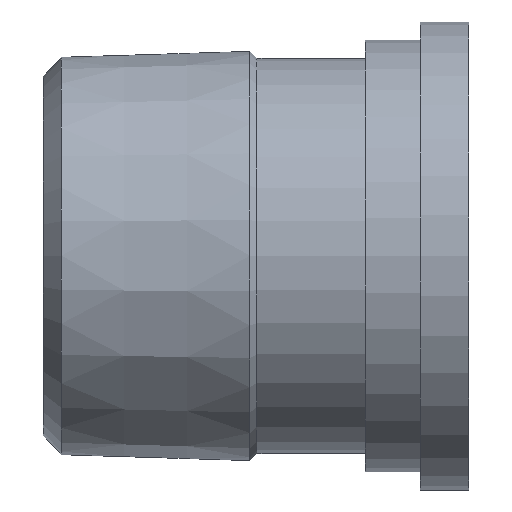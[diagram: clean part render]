
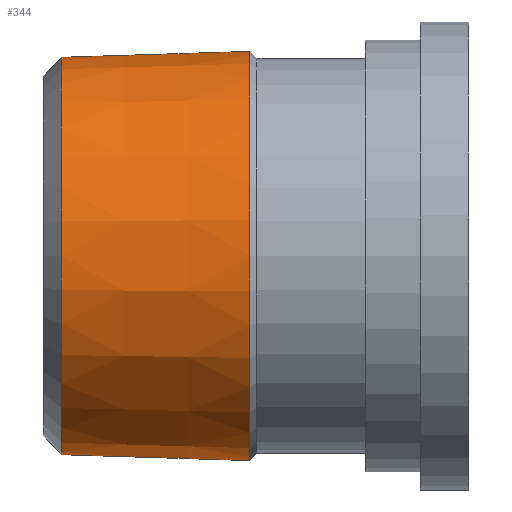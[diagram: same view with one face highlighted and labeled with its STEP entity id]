
A CAD part, top view. The second image highlights one B-rep face of the part: STEP entity #344.
In plain terms, the highlighted conical face has half-angle 1.79 degrees and reference radius 16.728 mm.
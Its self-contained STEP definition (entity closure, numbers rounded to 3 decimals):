
#64=FACE_BOUND('',#99,.T.);
#74=FACE_OUTER_BOUND('',#98,.T.);
#98=EDGE_LOOP('',(#248));
#99=EDGE_LOOP('',(#249));
#127=CIRCLE('',#368,16.346);
#136=CIRCLE('',#379,16.831);
#152=VERTEX_POINT('',#521);
#161=VERTEX_POINT('',#541);
#189=EDGE_CURVE('',#152,#152,#127,.T.);
#198=EDGE_CURVE('',#161,#161,#136,.T.);
#248=ORIENTED_EDGE('',*,*,#198,.F.);
#249=ORIENTED_EDGE('',*,*,#189,.F.);
#336=CONICAL_SURFACE('',#378,16.728,1.79);
#344=ADVANCED_FACE('',(#74,#64),#336,.T.);
#368=AXIS2_PLACEMENT_3D('',#522,#419,#420);
#378=AXIS2_PLACEMENT_3D('',#540,#439,#440);
#379=AXIS2_PLACEMENT_3D('',#542,#441,#442);
#419=DIRECTION('center_axis',(-1.,0.,0.));
#420=DIRECTION('ref_axis',(0.,-1.,0.));
#439=DIRECTION('center_axis',(1.,0.,0.));
#440=DIRECTION('ref_axis',(0.,1.,0.));
#441=DIRECTION('center_axis',(1.,0.,0.));
#442=DIRECTION('ref_axis',(0.,1.,0.));
#521=CARTESIAN_POINT('',(-33.501,16.346,0.));
#522=CARTESIAN_POINT('Origin',(-33.501,0.,0.));
#540=CARTESIAN_POINT('Origin',(-21.3,0.,0.));
#541=CARTESIAN_POINT('',(-18.,16.831,0.));
#542=CARTESIAN_POINT('Origin',(-18.,0.,0.));
